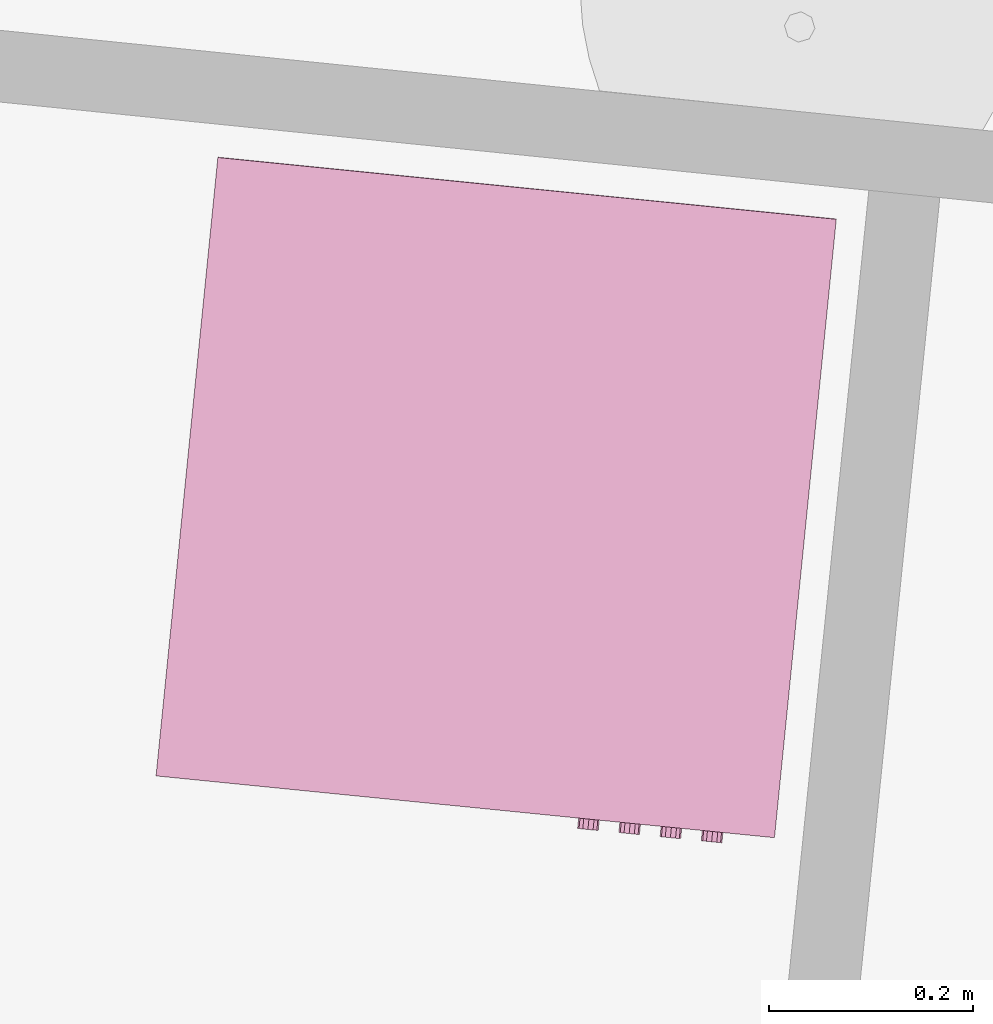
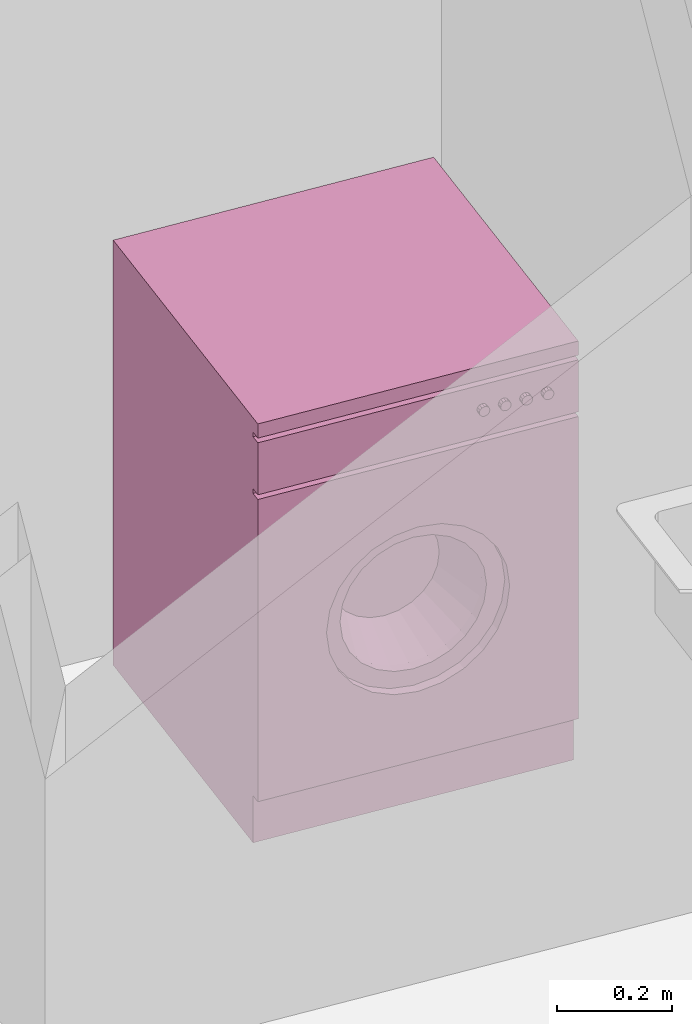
# One storey, part 138 of 171: 1 furnishing.
"""IFC2X3 building model written with IfcOpenShell, lengths in millimetres."""

from ifc_helpers import new_model, entity, si_unit, converted_unit, derived_unit, money_unit, direction, frame, origin_with_axes, place, context, subcontext, project, spatial, open_shell, faceted_brep, surface_model, source, transform, mapped, type_object, element, save


model = new_model("IFC2X3")

# Units and contexts
model_context = context("Model", 3, precision=0.01, world=origin_with_axes(), true_north=direction((0.0, 1.0)))
body_context = subcontext(model_context, "Body", "Model", "MODEL_VIEW")
ifc_project = project(units=[si_unit("LENGTHUNIT", "METRE", prefix="MILLI"), si_unit("AREAUNIT", "SQUARE_METRE"), si_unit("VOLUMEUNIT", "CUBIC_METRE"), converted_unit("PLANEANGLEUNIT", "DEGREE", entity("IfcPlaneAngleMeasure", 0.0174532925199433), si_unit("PLANEANGLEUNIT", "RADIAN"), dimensions=[0, 0, 0, 0, 0, 0, 0]), money_unit("USD"), converted_unit("TIMEUNIT", "Year", entity("IfcTimeMeasure", 31557600.0), si_unit("TIMEUNIT", "SECOND"), dimensions=[0, 0, 1, 0, 0, 0, 0]), si_unit("MASSUNIT", "GRAM", prefix="KILO"), si_unit("THERMODYNAMICTEMPERATUREUNIT", "DEGREE_CELSIUS"), si_unit("LUMINOUSINTENSITYUNIT", "LUMEN"), si_unit("ENERGYUNIT", "JOULE", prefix="MEGA"), derived_unit("THERMALCONDUCTANCEUNIT", [(si_unit("POWERUNIT", "WATT"), 1), (si_unit("LENGTHUNIT", "METRE"), -1), (si_unit("THERMODYNAMICTEMPERATUREUNIT", "KELVIN"), -1)]), derived_unit("SPECIFICHEATCAPACITYUNIT", [(si_unit("ENERGYUNIT", "JOULE"), 1), (si_unit("MASSUNIT", "GRAM", prefix="KILO"), -1), (si_unit("THERMODYNAMICTEMPERATUREUNIT", "KELVIN"), -1)]), derived_unit("MASSDENSITYUNIT", [(si_unit("MASSUNIT", "GRAM", prefix="KILO"), 1), (si_unit("VOLUMEUNIT", "CUBIC_METRE"), -1)])], contexts=[model_context])

# Site, building, storey
site_placement = place(None, origin_with_axes())
site = spatial("IfcSite", under=ifc_project, at=site_placement, Name="Site", CompositionType="ELEMENT")
building_placement = place(site_placement, origin_with_axes())
building = spatial("IfcBuilding", under=site, at=building_placement, Name="Bâtiment", CompositionType="ELEMENT")
storey_placement = place(building_placement, frame((0.0, 0.0, 3000.0), z_axis=(0.0, 0.0, 1.0), x_axis=(1.0, 0.0, 0.0)))
storey = spatial("IfcBuildingStorey", under=building, at=storey_placement, Name="rdc", CompositionType="ELEMENT", Elevation=3000.0)

# Furnishing
furnishing_element_type = type_object("IfcFurnishingElementType", Name="Machine à laver")
shared_shape = source(origin_with_axes(), body_context, "Body", "SurfaceModel", [
    faceted_brep([(0.0, 20.33333333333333, 100.0), (0.0, 0.0, 100.0), (-610.0, 0.0, 100.0), (-610.0, 20.33333333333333, 100.0), (0.0, 20.33333333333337, 740.0), (0.0, 0.0, 740.0), (-610.0, 0.0, 740.0), (-479.2857142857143, 0.0, 420.0000000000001), (-473.3470725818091, 0.0, 465.1084621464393), (-455.935856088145, 0.0, 507.1428571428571), (-428.2386104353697, 0.0, 543.2386104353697), (-392.1428571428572, 0.0, 570.935856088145), (-350.1084621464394, 0.0, 588.347072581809), (-305.0000000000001, 0.0, 594.2857142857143), (-259.8915378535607, 0.0, 588.347072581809), (-217.8571428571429, 0.0, 570.9358560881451), (-181.7613895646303, 0.0, 543.2386104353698), (-154.0641439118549, 0.0, 507.1428571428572), (-136.6529274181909, 0.0, 465.1084621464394), (-130.7142857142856, 0.0, 420.0000000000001), (-136.6529274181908, 0.0, 374.8915378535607), (-154.0641439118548, 0.0, 332.8571428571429), (-181.7613895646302, 0.0, 296.7613895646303), (-217.8571428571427, 0.0, 269.064143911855), (-259.8915378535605, 0.0, 251.6529274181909), (-304.9999999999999, 0.0, 245.7142857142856), (-350.1084621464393, 0.0, 251.6529274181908), (-392.1428571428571, 0.0, 269.0641439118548), (-428.2386104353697, 0.0, 296.7613895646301), (-455.935856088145, 0.0, 332.8571428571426), (-473.3470725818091, 0.0, 374.8915378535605), (-610.0, 20.33333333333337, 740.0), (-479.2857142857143, 20.33333333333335, 420.0000000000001), (-473.3470725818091, 20.33333333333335, 374.8915378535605), (-455.935856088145, 20.33333333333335, 332.8571428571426), (-428.2386104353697, 20.33333333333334, 296.7613895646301), (-392.1428571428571, 20.33333333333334, 269.0641439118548), (-350.1084621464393, 20.33333333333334, 251.6529274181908), (-304.9999999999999, 20.33333333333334, 245.7142857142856), (-259.8915378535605, 20.33333333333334, 251.6529274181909), (-217.8571428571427, 20.33333333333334, 269.064143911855), (-181.7613895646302, 20.33333333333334, 296.7613895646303), (-154.0641439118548, 20.33333333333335, 332.8571428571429), (-136.6529274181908, 20.33333333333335, 374.8915378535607), (-130.7142857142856, 20.33333333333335, 420.0000000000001), (-136.6529274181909, 20.33333333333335, 465.1084621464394), (-154.0641439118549, 20.33333333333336, 507.1428571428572), (-181.7613895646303, 20.33333333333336, 543.2386104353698), (-217.8571428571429, 20.33333333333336, 570.9358560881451), (-259.8915378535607, 20.33333333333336, 588.347072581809), (-305.0000000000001, 20.33333333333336, 594.2857142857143), (-350.1084621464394, 20.33333333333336, 588.347072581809), (-392.1428571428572, 20.33333333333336, 570.935856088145), (-428.2386104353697, 20.33333333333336, 543.2386104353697), (-455.935856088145, 20.33333333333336, 507.1428571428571), (-473.3470725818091, 20.33333333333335, 465.1084621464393)], [[[0, 1, 2, 3]], [[4, 5, 1, 0]], [[1, 5, 6, 2], [7, 8, 9, 10, 11, 12, 13, 14, 15, 16, 17, 18, 19, 20, 21, 22, 23, 24, 25, 26, 27, 28, 29, 30]], [[3, 2, 6, 31]], [[0, 3, 31, 4], [32, 33, 34, 35, 36, 37, 38, 39, 40, 41, 42, 43, 44, 45, 46, 47, 48, 49, 50, 51, 52, 53, 54, 55]], [[31, 6, 5, 4]], [[55, 8, 7, 32]], [[54, 9, 8, 55]], [[53, 10, 9, 54]], [[52, 11, 10, 53]], [[51, 12, 11, 52]], [[50, 13, 12, 51]], [[49, 14, 13, 50]], [[48, 15, 14, 49]], [[47, 16, 15, 48]], [[46, 17, 16, 47]], [[45, 18, 17, 46]], [[44, 19, 18, 45]], [[43, 20, 19, 44]], [[42, 21, 20, 43]], [[41, 22, 21, 42]], [[40, 23, 22, 41]], [[39, 24, 23, 40]], [[38, 25, 24, 39]], [[37, 26, 25, 38]], [[36, 27, 26, 37]], [[35, 28, 27, 36]], [[34, 29, 28, 35]], [[33, 30, 29, 34]], [[32, 7, 30, 33]]]),
    faceted_brep([(-479.2857142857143, 40.66666666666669, 420.0000000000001), (-479.2857142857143, 20.33333333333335, 420.0000000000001), (-473.3470725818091, 20.33333333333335, 465.1084621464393), (-473.3470725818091, 40.66666666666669, 465.1084621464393), (-473.3470725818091, 40.66666666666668, 374.8915378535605), (-473.3470725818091, 20.33333333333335, 374.8915378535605), (-455.935856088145, 20.33333333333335, 332.8571428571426), (-428.2386104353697, 20.33333333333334, 296.7613895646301), (-392.1428571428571, 20.33333333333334, 269.0641439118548), (-350.1084621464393, 20.33333333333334, 251.6529274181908), (-304.9999999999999, 20.33333333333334, 245.7142857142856), (-259.8915378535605, 20.33333333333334, 251.6529274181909), (-217.8571428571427, 20.33333333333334, 269.064143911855), (-181.7613895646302, 20.33333333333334, 296.7613895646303), (-154.0641439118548, 20.33333333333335, 332.8571428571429), (-136.6529274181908, 20.33333333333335, 374.8915378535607), (-130.7142857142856, 20.33333333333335, 420.0000000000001), (-136.6529274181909, 20.33333333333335, 465.1084621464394), (-154.0641439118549, 20.33333333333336, 507.1428571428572), (-181.7613895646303, 20.33333333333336, 543.2386104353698), (-217.8571428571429, 20.33333333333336, 570.9358560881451), (-259.8915378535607, 20.33333333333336, 588.347072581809), (-305.0000000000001, 20.33333333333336, 594.2857142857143), (-350.1084621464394, 20.33333333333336, 588.347072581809), (-392.1428571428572, 20.33333333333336, 570.935856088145), (-428.2386104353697, 20.33333333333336, 543.2386104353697), (-455.935856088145, 20.33333333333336, 507.1428571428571), (-444.4285714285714, 20.33333333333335, 420.0000000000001), (-439.6776580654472, 20.33333333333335, 456.0867697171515), (-425.748684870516, 20.33333333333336, 489.7142857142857), (-403.5908883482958, 20.33333333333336, 518.5908883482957), (-374.7142857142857, 20.33333333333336, 540.748684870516), (-341.0867697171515, 20.33333333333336, 554.6776580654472), (-305.0000000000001, 20.33333333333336, 559.4285714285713), (-268.9132302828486, 20.33333333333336, 554.6776580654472), (-235.2857142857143, 20.33333333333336, 540.7486848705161), (-206.4091116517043, 20.33333333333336, 518.5908883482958), (-184.251315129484, 20.33333333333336, 489.7142857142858), (-170.3223419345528, 20.33333333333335, 456.0867697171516), (-165.5714285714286, 20.33333333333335, 420.0000000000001), (-170.3223419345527, 20.33333333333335, 383.9132302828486), (-184.2513151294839, 20.33333333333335, 350.2857142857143), (-206.4091116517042, 20.33333333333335, 321.4091116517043), (-235.2857142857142, 20.33333333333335, 299.251315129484), (-268.9132302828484, 20.33333333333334, 285.3223419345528), (-304.9999999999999, 20.33333333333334, 280.5714285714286), (-341.0867697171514, 20.33333333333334, 285.3223419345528), (-374.7142857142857, 20.33333333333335, 299.2513151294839), (-403.5908883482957, 20.33333333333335, 321.4091116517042), (-425.748684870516, 20.33333333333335, 350.2857142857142), (-439.6776580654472, 20.33333333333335, 383.9132302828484), (-455.935856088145, 40.66666666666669, 507.1428571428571), (-428.2386104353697, 40.66666666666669, 543.2386104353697), (-392.1428571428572, 40.66666666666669, 570.935856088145), (-350.1084621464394, 40.66666666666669, 588.347072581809), (-305.0000000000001, 40.66666666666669, 594.2857142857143), (-259.8915378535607, 40.66666666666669, 588.347072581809), (-217.8571428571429, 40.66666666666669, 570.9358560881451), (-181.7613895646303, 40.66666666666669, 543.2386104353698), (-154.0641439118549, 40.66666666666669, 507.1428571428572), (-136.6529274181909, 40.66666666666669, 465.1084621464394), (-130.7142857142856, 40.66666666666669, 420.0000000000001), (-136.6529274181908, 40.66666666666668, 374.8915378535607), (-154.0641439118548, 40.66666666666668, 332.8571428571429), (-181.7613895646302, 40.66666666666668, 296.7613895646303), (-217.8571428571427, 40.66666666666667, 269.064143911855), (-259.8915378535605, 40.66666666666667, 251.6529274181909), (-304.9999999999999, 40.66666666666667, 245.7142857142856), (-350.1084621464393, 40.66666666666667, 251.6529274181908), (-392.1428571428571, 40.66666666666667, 269.0641439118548), (-428.2386104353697, 40.66666666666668, 296.7613895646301), (-455.935856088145, 40.66666666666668, 332.8571428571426), (-444.4285714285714, 40.66666666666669, 420.0000000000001), (-439.6776580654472, 40.66666666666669, 383.9132302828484), (-425.748684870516, 40.66666666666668, 350.2857142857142), (-403.5908883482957, 40.66666666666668, 321.4091116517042), (-374.7142857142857, 40.66666666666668, 299.2513151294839), (-341.0867697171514, 40.66666666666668, 285.3223419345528), (-304.9999999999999, 40.66666666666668, 280.5714285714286), (-268.9132302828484, 40.66666666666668, 285.3223419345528), (-235.2857142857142, 40.66666666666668, 299.251315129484), (-206.4091116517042, 40.66666666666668, 321.4091116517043), (-184.2513151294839, 40.66666666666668, 350.2857142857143), (-170.3223419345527, 40.66666666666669, 383.9132302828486), (-165.5714285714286, 40.66666666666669, 420.0000000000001), (-170.3223419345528, 40.66666666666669, 456.0867697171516), (-184.251315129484, 40.66666666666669, 489.7142857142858), (-206.4091116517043, 40.66666666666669, 518.5908883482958), (-235.2857142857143, 40.66666666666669, 540.7486848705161), (-268.9132302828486, 40.66666666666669, 554.6776580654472), (-305.0000000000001, 40.66666666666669, 559.4285714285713), (-341.0867697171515, 40.66666666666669, 554.6776580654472), (-374.7142857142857, 40.66666666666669, 540.748684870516), (-403.5908883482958, 40.66666666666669, 518.5908883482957), (-425.748684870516, 40.66666666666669, 489.7142857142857), (-439.6776580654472, 40.66666666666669, 456.0867697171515)], [[[0, 1, 2, 3]], [[4, 5, 1, 0]], [[1, 5, 6, 7, 8, 9, 10, 11, 12, 13, 14, 15, 16, 17, 18, 19, 20, 21, 22, 23, 24, 25, 26, 2], [27, 28, 29, 30, 31, 32, 33, 34, 35, 36, 37, 38, 39, 40, 41, 42, 43, 44, 45, 46, 47, 48, 49, 50]], [[3, 2, 26, 51]], [[0, 3, 51, 52, 53, 54, 55, 56, 57, 58, 59, 60, 61, 62, 63, 64, 65, 66, 67, 68, 69, 70, 71, 4], [72, 73, 74, 75, 76, 77, 78, 79, 80, 81, 82, 83, 84, 85, 86, 87, 88, 89, 90, 91, 92, 93, 94, 95]], [[71, 6, 5, 4]], [[70, 7, 6, 71]], [[69, 8, 7, 70]], [[68, 9, 8, 69]], [[67, 10, 9, 68]], [[66, 11, 10, 67]], [[65, 12, 11, 66]], [[64, 13, 12, 65]], [[63, 14, 13, 64]], [[62, 15, 14, 63]], [[61, 16, 15, 62]], [[60, 17, 16, 61]], [[59, 18, 17, 60]], [[58, 19, 18, 59]], [[57, 20, 19, 58]], [[56, 21, 20, 57]], [[55, 22, 21, 56]], [[54, 23, 22, 55]], [[53, 24, 23, 54]], [[52, 25, 24, 53]], [[51, 26, 25, 52]], [[95, 28, 27, 72]], [[94, 29, 28, 95]], [[93, 30, 29, 94]], [[92, 31, 30, 93]], [[91, 32, 31, 92]], [[90, 33, 32, 91]], [[89, 34, 33, 90]], [[88, 35, 34, 89]], [[87, 36, 35, 88]], [[86, 37, 36, 87]], [[85, 38, 37, 86]], [[84, 39, 38, 85]], [[83, 40, 39, 84]], [[82, 41, 40, 83]], [[81, 42, 41, 82]], [[80, 43, 42, 81]], [[79, 44, 43, 80]], [[78, 45, 44, 79]], [[77, 46, 45, 78]], [[76, 47, 46, 77]], [[75, 48, 47, 76]], [[74, 49, 48, 75]], [[73, 50, 49, 74]], [[72, 27, 50, 73]]]),
    surface_model("IfcShellBasedSurfaceModel", [(-268.9132302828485, 40.6666666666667, 554.6776580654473), (-277.9349227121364, 142.3333333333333, 521.0082435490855), (-305.0, 142.3333333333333, 524.5714285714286), (-305.0, 40.6666666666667, 559.4285714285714), (-235.2857142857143, 40.6666666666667, 540.7486848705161), (-252.7142857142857, 142.3333333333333, 510.5615136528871), (-231.0568337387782, 142.3333333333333, 493.9431662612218), (-214.438486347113, 142.3333333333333, 472.2857142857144), (-203.9917564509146, 142.3333333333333, 447.0650772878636), (-200.4285714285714, 142.3333333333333, 420.0000000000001), (-203.9917564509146, 142.3333333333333, 392.9349227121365), (-214.4384863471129, 142.3333333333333, 367.7142857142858), (-231.0568337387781, 142.3333333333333, 346.0568337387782), (-252.7142857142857, 142.3333333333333, 329.438486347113), (-277.9349227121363, 142.3333333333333, 318.9917564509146), (-304.9999999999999, 142.3333333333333, 315.4285714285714), (-332.0650772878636, 142.3333333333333, 318.9917564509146), (-357.2857142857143, 142.3333333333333, 329.438486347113), (-378.9431662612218, 142.3333333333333, 346.0568337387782), (-395.561513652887, 142.3333333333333, 367.7142857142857), (-406.0082435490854, 142.3333333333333, 392.9349227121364), (-409.5714285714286, 142.3333333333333, 420.0), (-406.0082435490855, 142.3333333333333, 447.0650772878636), (-395.5615136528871, 142.3333333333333, 472.2857142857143), (-378.9431662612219, 142.3333333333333, 493.9431662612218), (-357.2857142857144, 142.3333333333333, 510.5615136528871), (-332.0650772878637, 142.3333333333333, 521.0082435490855), (-341.0867697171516, 40.6666666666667, 554.6776580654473), (-206.4091116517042, 40.66666666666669, 518.5908883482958), (-184.251315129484, 40.66666666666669, 489.7142857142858), (-170.3223419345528, 40.66666666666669, 456.0867697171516), (-165.5714285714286, 40.66666666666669, 420.0000000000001), (-170.3223419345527, 40.66666666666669, 383.9132302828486), (-184.2513151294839, 40.66666666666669, 350.2857142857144), (-206.4091116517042, 40.66666666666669, 321.4091116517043), (-235.2857142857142, 40.66666666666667, 299.251315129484), (-268.9132302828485, 40.66666666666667, 285.3223419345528), (-304.9999999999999, 40.66666666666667, 280.5714285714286), (-341.0867697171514, 40.66666666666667, 285.3223419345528), (-374.7142857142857, 40.66666666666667, 299.2513151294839), (-403.5908883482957, 40.66666666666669, 321.4091116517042), (-425.748684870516, 40.66666666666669, 350.2857142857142), (-439.6776580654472, 40.66666666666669, 383.9132302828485), (-444.4285714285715, 40.66666666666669, 419.9999999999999), (-439.6776580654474, 40.66666666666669, 456.0867697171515), (-425.7486848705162, 40.66666666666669, 489.7142857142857), (-403.5908883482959, 40.66666666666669, 518.5908883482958), (-374.7142857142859, 40.6666666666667, 540.7486848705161)], [open_shell([[[0, 1, 2, 3]], [[4, 5, 1, 0]], [[2, 1, 5, 6, 7, 8, 9, 10, 11, 12, 13, 14, 15, 16, 17, 18, 19, 20, 21, 22, 23, 24, 25, 26]], [[3, 2, 26, 27]], [[28, 6, 5, 4]], [[29, 7, 6, 28]], [[30, 8, 7, 29]], [[31, 9, 8, 30]], [[32, 10, 9, 31]], [[33, 11, 10, 32]], [[34, 12, 11, 33]], [[35, 13, 12, 34]], [[36, 14, 13, 35]], [[37, 15, 14, 36]], [[38, 16, 15, 37]], [[39, 17, 16, 38]], [[40, 18, 17, 39]], [[41, 19, 18, 40]], [[42, 20, 19, 41]], [[43, 21, 20, 42]], [[44, 22, 21, 43]], [[45, 23, 22, 44]], [[46, 24, 23, 45]], [[47, 25, 24, 46]], [[27, 26, 25, 47]]])]),
    surface_model("IfcShellBasedSurfaceModel", [(0.0, 20.33333333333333, 100.0), (0.0, 610.0, 99.99999999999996), (0.0, 610.0, 870.0), (0.0, 20.33333333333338, 870.0)], [open_shell([[[0, 1, 2, 3]]])]),
    surface_model("IfcShellBasedSurfaceModel", [(-610.0, 20.33333333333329, 100.0), (-610.0, 610.0, 99.99999999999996), (-610.0, 610.0, 870.0), (-610.0, 20.33333333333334, 870.0)], [open_shell([[[0, 1, 2, 3]]])]),
    surface_model("IfcShellBasedSurfaceModel", [(0.0, 610.0, 100.0), (-610.0, 610.0, 100.0), (-610.0, 610.0, 870.0), (0.0, 610.0, 870.0)], [open_shell([[[0, 1, 2, 3]]])]),
    faceted_brep([(0.0, 20.33333333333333, 0.0), (0.0, 20.33333333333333, 100.0), (-610.0, 20.33333333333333, 100.0), (-610.0, 20.33333333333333, 0.0), (0.0, 610.3333333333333, 0.0), (0.0, 610.3333333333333, 100.0), (-610.0, 610.3333333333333, 100.0), (-610.0, 610.3333333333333, 0.0)], [[[0, 1, 2, 3]], [[4, 5, 1, 0]], [[1, 5, 6, 2]], [[3, 2, 6, 7]], [[0, 3, 7, 4]], [[7, 6, 5, 4]]]),
    faceted_brep([(0.0, 20.33333333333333, 750.0), (0.0, 0.0, 750.0), (-610.0, 0.0, 750.0), (-610.0, 20.33333333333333, 750.0), (0.0, 20.33333333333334, 860.0), (0.0, 0.0, 860.0), (-610.0, 0.0, 860.0), (-610.0, 20.33333333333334, 860.0)], [[[0, 1, 2, 3]], [[4, 5, 1, 0]], [[1, 5, 6, 2]], [[3, 2, 6, 7]], [[0, 3, 7, 4]], [[7, 6, 5, 4]]]),
    surface_model("IfcShellBasedSurfaceModel", [(0.0, 20.33333333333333, 739.8333333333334), (-610.0, 20.33333333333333, 739.8333333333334), (-610.0, 20.33333333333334, 869.8333333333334), (0.0, 20.33333333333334, 869.8333333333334)], [open_shell([[[0, 1, 2, 3]]])]),
    faceted_brep([(0.0, 0.0, 870.0), (0.0, 0.0, 900.0), (-610.0, 0.0, 900.0), (-610.0, 0.0, 870.0), (0.0, 610.0, 870.0), (0.0, 610.0, 900.0), (-610.0, 610.0, 900.0), (-610.0, 610.0, 870.0)], [[[0, 1, 2, 3]], [[4, 5, 1, 0]], [[1, 5, 6, 2]], [[3, 2, 6, 7]], [[0, 3, 7, 4]], [[7, 6, 5, 4]]]),
    faceted_brep([(-69.80459160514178, 0.0, 804.9166666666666), (-71.16666666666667, 0.0, 809.9999999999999), (-69.8045916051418, 0.0, 815.0833333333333), (-66.08333333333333, 0.0, 818.8045916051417), (-61.0, 0.0, 820.1666666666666), (-55.91666666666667, 0.0, 818.8045916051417), (-52.19540839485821, 0.0, 815.0833333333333), (-50.83333333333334, 0.0, 809.9999999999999), (-52.1954083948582, 0.0, 804.9166666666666), (-55.91666666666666, 0.0, 801.1954083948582), (-60.99999999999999, 0.0, 799.8333333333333), (-66.08333333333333, 0.0, 801.1954083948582), (-69.80459160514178, -10.16666666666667, 804.9166666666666), (-71.16666666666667, -10.16666666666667, 809.9999999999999), (-69.8045916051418, -10.16666666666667, 815.0833333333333), (-66.08333333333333, -10.16666666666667, 818.8045916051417), (-61.0, -10.16666666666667, 820.1666666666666), (-55.91666666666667, -10.16666666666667, 818.8045916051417), (-52.19540839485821, -10.16666666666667, 815.0833333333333), (-50.83333333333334, -10.16666666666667, 809.9999999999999), (-52.1954083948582, -10.16666666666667, 804.9166666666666), (-55.91666666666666, -10.16666666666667, 801.1954083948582), (-60.99999999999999, -10.16666666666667, 799.8333333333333), (-66.08333333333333, -10.16666666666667, 801.1954083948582)], [[[0, 1, 2, 3, 4, 5, 6, 7, 8, 9, 10, 11]], [[0, 12, 13, 1]], [[1, 13, 14, 2]], [[2, 14, 15, 3]], [[3, 15, 16, 4]], [[4, 16, 17, 5]], [[5, 17, 18, 6]], [[6, 18, 19, 7]], [[7, 19, 20, 8]], [[8, 20, 21, 9]], [[9, 21, 22, 10]], [[10, 22, 23, 11]], [[11, 23, 12, 0]], [[12, 23, 22, 21, 20, 19, 18, 17, 16, 15, 14, 13]]]),
    faceted_brep([(-110.4712582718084, 0.0, 804.9166666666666), (-111.8333333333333, 0.0, 809.9999999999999), (-110.4712582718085, 0.0, 815.0833333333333), (-106.75, 0.0, 818.8045916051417), (-101.6666666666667, 0.0, 820.1666666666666), (-96.58333333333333, 0.0, 818.8045916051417), (-92.86207506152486, 0.0, 815.0833333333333), (-91.49999999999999, 0.0, 809.9999999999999), (-92.86207506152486, 0.0, 804.9166666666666), (-96.58333333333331, 0.0, 801.1954083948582), (-101.6666666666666, 0.0, 799.8333333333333), (-106.75, 0.0, 801.1954083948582), (-110.4712582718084, -10.16666666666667, 804.9166666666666), (-111.8333333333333, -10.16666666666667, 809.9999999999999), (-110.4712582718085, -10.16666666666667, 815.0833333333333), (-106.75, -10.16666666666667, 818.8045916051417), (-101.6666666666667, -10.16666666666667, 820.1666666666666), (-96.58333333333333, -10.16666666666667, 818.8045916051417), (-92.86207506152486, -10.16666666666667, 815.0833333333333), (-91.49999999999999, -10.16666666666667, 809.9999999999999), (-92.86207506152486, -10.16666666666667, 804.9166666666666), (-96.58333333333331, -10.16666666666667, 801.1954083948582), (-101.6666666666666, -10.16666666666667, 799.8333333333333), (-106.75, -10.16666666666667, 801.1954083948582)], [[[0, 1, 2, 3, 4, 5, 6, 7, 8, 9, 10, 11]], [[0, 12, 13, 1]], [[1, 13, 14, 2]], [[2, 14, 15, 3]], [[3, 15, 16, 4]], [[4, 16, 17, 5]], [[5, 17, 18, 6]], [[6, 18, 19, 7]], [[7, 19, 20, 8]], [[8, 20, 21, 9]], [[9, 21, 22, 10]], [[10, 22, 23, 11]], [[11, 23, 12, 0]], [[12, 23, 22, 21, 20, 19, 18, 17, 16, 15, 14, 13]]]),
    faceted_brep([(-151.1379249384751, 0.0, 804.9166666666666), (-152.5, 0.0, 809.9999999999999), (-151.1379249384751, 0.0, 815.0833333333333), (-147.4166666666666, 0.0, 818.8045916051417), (-142.3333333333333, 0.0, 820.1666666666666), (-137.25, 0.0, 818.8045916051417), (-133.5287417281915, 0.0, 815.0833333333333), (-132.1666666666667, 0.0, 809.9999999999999), (-133.5287417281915, 0.0, 804.9166666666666), (-137.25, 0.0, 801.1954083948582), (-142.3333333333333, 0.0, 799.8333333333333), (-147.4166666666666, 0.0, 801.1954083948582), (-151.1379249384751, -10.16666666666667, 804.9166666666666), (-152.5, -10.16666666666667, 809.9999999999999), (-151.1379249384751, -10.16666666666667, 815.0833333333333), (-147.4166666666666, -10.16666666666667, 818.8045916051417), (-142.3333333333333, -10.16666666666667, 820.1666666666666), (-137.25, -10.16666666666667, 818.8045916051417), (-133.5287417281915, -10.16666666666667, 815.0833333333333), (-132.1666666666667, -10.16666666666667, 809.9999999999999), (-133.5287417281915, -10.16666666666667, 804.9166666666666), (-137.25, -10.16666666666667, 801.1954083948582), (-142.3333333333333, -10.16666666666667, 799.8333333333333), (-147.4166666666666, -10.16666666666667, 801.1954083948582)], [[[0, 1, 2, 3, 4, 5, 6, 7, 8, 9, 10, 11]], [[0, 12, 13, 1]], [[1, 13, 14, 2]], [[2, 14, 15, 3]], [[3, 15, 16, 4]], [[4, 16, 17, 5]], [[5, 17, 18, 6]], [[6, 18, 19, 7]], [[7, 19, 20, 8]], [[8, 20, 21, 9]], [[9, 21, 22, 10]], [[10, 22, 23, 11]], [[11, 23, 12, 0]], [[12, 23, 22, 21, 20, 19, 18, 17, 16, 15, 14, 13]]]),
    faceted_brep([(-191.8045916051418, 0.0, 804.9166666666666), (-193.1666666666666, 0.0, 809.9999999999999), (-191.8045916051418, 0.0, 815.0833333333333), (-188.0833333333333, 0.0, 818.8045916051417), (-183.0, 0.0, 820.1666666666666), (-177.9166666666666, 0.0, 818.8045916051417), (-174.1954083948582, 0.0, 815.0833333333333), (-172.8333333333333, 0.0, 809.9999999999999), (-174.1954083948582, 0.0, 804.9166666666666), (-177.9166666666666, 0.0, 801.1954083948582), (-183.0, 0.0, 799.8333333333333), (-188.0833333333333, 0.0, 801.1954083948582), (-191.8045916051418, -10.16666666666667, 804.9166666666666), (-193.1666666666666, -10.16666666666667, 809.9999999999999), (-191.8045916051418, -10.16666666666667, 815.0833333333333), (-188.0833333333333, -10.16666666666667, 818.8045916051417), (-183.0, -10.16666666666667, 820.1666666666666), (-177.9166666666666, -10.16666666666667, 818.8045916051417), (-174.1954083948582, -10.16666666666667, 815.0833333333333), (-172.8333333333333, -10.16666666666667, 809.9999999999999), (-174.1954083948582, -10.16666666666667, 804.9166666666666), (-177.9166666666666, -10.16666666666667, 801.1954083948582), (-183.0, -10.16666666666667, 799.8333333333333), (-188.0833333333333, -10.16666666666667, 801.1954083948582)], [[[0, 1, 2, 3, 4, 5, 6, 7, 8, 9, 10, 11]], [[0, 12, 13, 1]], [[1, 13, 14, 2]], [[2, 14, 15, 3]], [[3, 15, 16, 4]], [[4, 16, 17, 5]], [[5, 17, 18, 6]], [[6, 18, 19, 7]], [[7, 19, 20, 8]], [[8, 20, 21, 9]], [[9, 21, 22, 10]], [[10, 22, 23, 11]], [[11, 23, 12, 0]], [[12, 23, 22, 21, 20, 19, 18, 17, 16, 15, 14, 13]]]),
])
furnishing_placement = place(storey_placement, frame((2224358.079953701, -617334.2925070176, 0.0), z_axis=(0.0, 0.0, 1.0), x_axis=(0.9950436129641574, -0.09943947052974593, 0.0)))
element("IfcFurnishingElement", 1, at=furnishing_placement, inside=storey, type_object=furnishing_element_type, Name="Obj.-003", context=body_context, shape_type="MappedRepresentation", body=[
    mapped(shared_shape, transform((0.0, 0.0, 0.0))),
])

save(model, "model.ifc")
